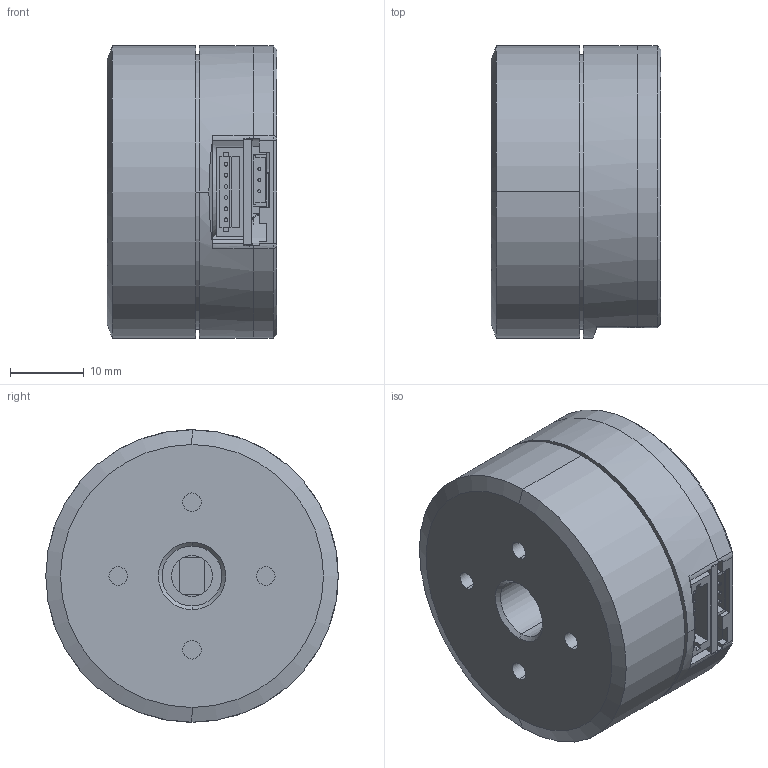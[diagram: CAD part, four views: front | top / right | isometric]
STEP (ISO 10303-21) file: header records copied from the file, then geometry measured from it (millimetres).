
FILE_DESCRIPTION (( 'STEP AP214' ), '1' );
FILE_NAME ('MS4005v2.STEP', '2023-04-06T04:18:04', ( 'zhang_jianheng@outlook.com' ), ( 'HP' ), 'SwSTEP 2.0', 'SolidWorks 2020', '' );
FILE_SCHEMA (( 'AUTOMOTIVE_DESIGN' ));
Length unit declared in the file: millimetre
Products named in the file (1): MS4005v2
Bounding box: 23 x 39.6 x 39.6 mm (x, y, z)
Volume: 20451.9 mm3; surface area: 15907.9 mm2
Topology: 36 solids, 36 shells, 1009 faces, 2559 edges, 1666 vertices
Faces by surface type: plane 532, cylinder 321, bspline 110, cone 46
Entity records: 44787 total; most frequent: CARTESIAN_POINT 9271, ORIENTED_EDGE 5070, DIRECTION 4785, EDGE_CURVE 2535, VERTEX_POINT 1666, AXIS2_PLACEMENT_3D 1620, VECTOR 1545, LINE 1545
